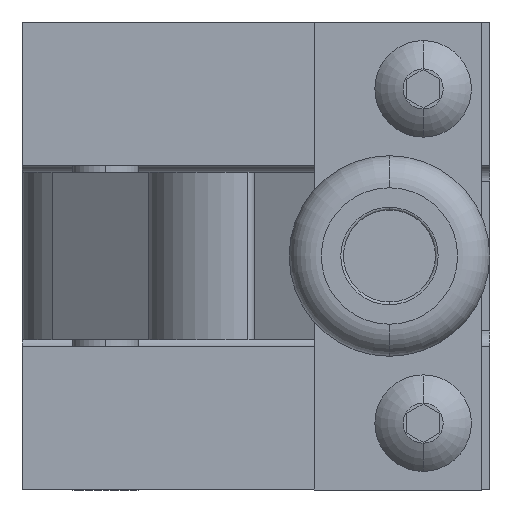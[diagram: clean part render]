
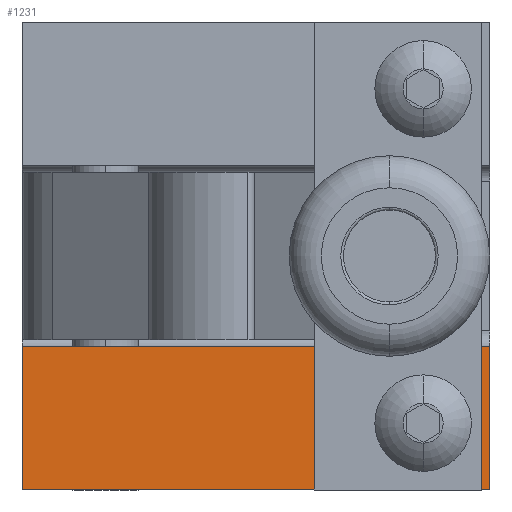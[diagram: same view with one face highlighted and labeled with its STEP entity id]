
A CAD part, left-side view. The second image highlights one B-rep face of the part: STEP entity #1231.
In plain terms, the highlighted planar face has unit normal (-1, 0, 0).
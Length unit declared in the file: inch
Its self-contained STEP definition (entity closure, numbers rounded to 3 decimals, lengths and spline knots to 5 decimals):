
#1126 = EDGE_CURVE ( 'NONE', #13619, #13563, #1889, .T. ) ;
#1127 = ORIENTED_EDGE ( 'NONE', *, *, #13475, .F. ) ;
#1128 = ORIENTED_EDGE ( 'NONE', *, *, #1126, .F. ) ;
#1129 = EDGE_LOOP ( 'NONE', ( #1130, #1259, #1226, #1132 ) ) ;
#1130 = ORIENTED_EDGE ( 'NONE', *, *, #1257, .F. ) ;
#1132 = ORIENTED_EDGE ( 'NONE', *, *, #1133, .T. ) ;
#1133 = EDGE_CURVE ( 'NONE', #1260, #1258, #1883, .T. ) ;
#1226 = ORIENTED_EDGE ( 'NONE', *, *, #1227, .T. ) ;
#1227 = EDGE_CURVE ( 'NONE', #13614, #1260, #2254, .T. ) ;
#1231 = ADVANCED_FACE ( 'NONE', ( #18265, #18290 ), #18149, .T. ) ;
#1232 = EDGE_LOOP ( 'NONE', ( #1128, #1127 ) ) ;
#1257 = EDGE_CURVE ( 'NONE', #13637, #1258, #18130, .T. ) ;
#1258 = VERTEX_POINT ( 'NONE', #18271 ) ;
#1259 = ORIENTED_EDGE ( 'NONE', *, *, #13616, .F. ) ;
#1260 = VERTEX_POINT ( 'NONE', #18270 ) ;
#1880 = DIRECTION ( 'NONE',  ( 0., 0., 1. ) ) ;
#1881 = VECTOR ( 'NONE', #1880, 39.37008 ) ;
#1882 = CARTESIAN_POINT ( 'NONE',  ( 7.4273, 3.59026, -1.75 ) ) ;
#1883 = LINE ( 'NONE', #1882, #1881 ) ;
#1885 = DIRECTION ( 'NONE',  ( 0., 0., 1. ) ) ;
#1886 = DIRECTION ( 'NONE',  ( -1., 0., 0. ) ) ;
#1887 = CARTESIAN_POINT ( 'NONE',  ( 7.4273, 3.84026, -1.5 ) ) ;
#1888 = AXIS2_PLACEMENT_3D ( 'NONE', #1887, #1886, #1885 ) ;
#1889 = CIRCLE ( 'NONE', #1888, 0.09375 ) ;
#2251 = DIRECTION ( 'NONE',  ( 0., -1., 0. ) ) ;
#2252 = VECTOR ( 'NONE', #2251, 39.37008 ) ;
#2253 = CARTESIAN_POINT ( 'NONE',  ( 7.4273, 3.59026, -1.75 ) ) ;
#2254 = LINE ( 'NONE', #2253, #2252 ) ;
#2627 = DIRECTION ( 'NONE',  ( 0., 0., 1. ) ) ;
#2628 = DIRECTION ( 'NONE',  ( -1., 0., 0. ) ) ;
#2629 = CARTESIAN_POINT ( 'NONE',  ( 7.4273, 3.84026, -1.5 ) ) ;
#2630 = AXIS2_PLACEMENT_3D ( 'NONE', #2629, #2628, #2627 ) ;
#2631 = CIRCLE ( 'NONE', #2630, 0.09375 ) ;
#2834 = CARTESIAN_POINT ( 'NONE',  ( 7.4273, 3.84026, -1.59375 ) ) ;
#2906 = CARTESIAN_POINT ( 'NONE',  ( 7.4273, 3.84026, -1.40625 ) ) ;
#2924 = CARTESIAN_POINT ( 'NONE',  ( 7.4273, 5.34026, -1.215 ) ) ;
#2958 = DIRECTION ( 'NONE',  ( 0., 0., 1. ) ) ;
#2959 = VECTOR ( 'NONE', #2958, 39.37008 ) ;
#2960 = CARTESIAN_POINT ( 'NONE',  ( 7.4273, 5.34026, -1.75 ) ) ;
#2961 = LINE ( 'NONE', #2960, #2959 ) ;
#2977 = CARTESIAN_POINT ( 'NONE',  ( 7.4273, 5.34026, -1.75 ) ) ;
#13475 = EDGE_CURVE ( 'NONE', #13563, #13619, #2631, .T. ) ;
#13563 = VERTEX_POINT ( 'NONE', #2834 ) ;
#13614 = VERTEX_POINT ( 'NONE', #2977 ) ;
#13616 = EDGE_CURVE ( 'NONE', #13614, #13637, #2961, .T. ) ;
#13619 = VERTEX_POINT ( 'NONE', #2906 ) ;
#13637 = VERTEX_POINT ( 'NONE', #2924 ) ;
#18127 = VECTOR ( 'NONE', #18272, 39.37008 ) ;
#18129 = CARTESIAN_POINT ( 'NONE',  ( 7.4273, 3.59026, -1.215 ) ) ;
#18130 = LINE ( 'NONE', #18129, #18127 ) ;
#18135 = DIRECTION ( 'NONE',  ( 0., 0., 1. ) ) ;
#18149 = PLANE ( 'NONE',  #18203 ) ;
#18154 = DIRECTION ( 'NONE',  ( -1., 0., 0. ) ) ;
#18200 = CARTESIAN_POINT ( 'NONE',  ( 7.4273, 3.59026, -1.75 ) ) ;
#18203 = AXIS2_PLACEMENT_3D ( 'NONE', #18200, #18154, #18135 ) ;
#18265 = FACE_BOUND ( 'NONE', #1232, .T. ) ;
#18270 = CARTESIAN_POINT ( 'NONE',  ( 7.4273, 3.59026, -1.75 ) ) ;
#18271 = CARTESIAN_POINT ( 'NONE',  ( 7.4273, 3.59026, -1.215 ) ) ;
#18272 = DIRECTION ( 'NONE',  ( 0., -1., 0. ) ) ;
#18290 = FACE_OUTER_BOUND ( 'NONE', #1129, .T. ) ;
